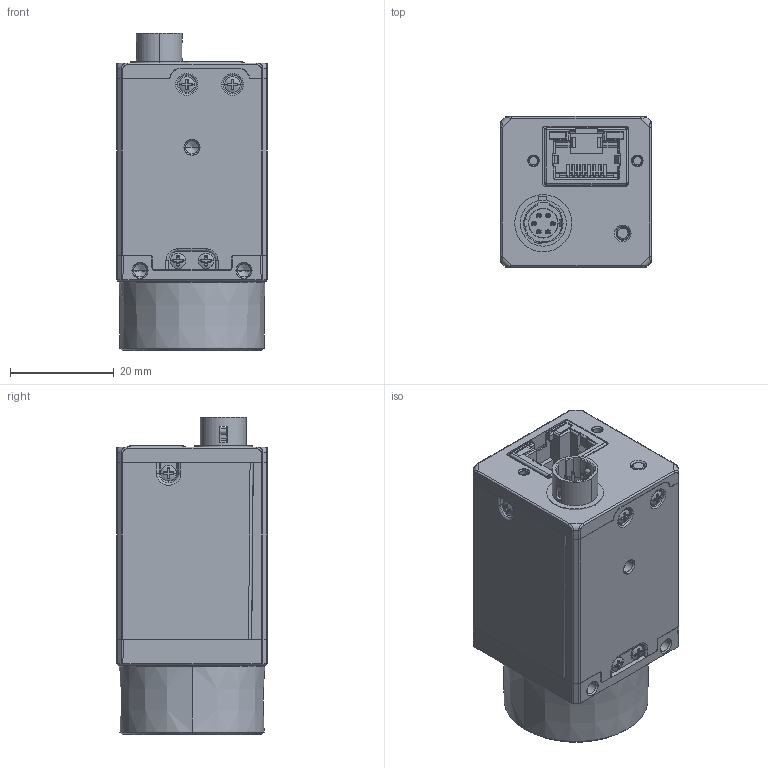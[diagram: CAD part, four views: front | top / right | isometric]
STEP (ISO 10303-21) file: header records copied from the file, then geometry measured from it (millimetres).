
FILE_DESCRIPTION((''),'2;1');
FILE_NAME('00-CUG_GK_ASM','2024-12-26T15:06:53',('zhangqianwen8'),(''),'CREO PARAMETRIC BY PTC INC, 2020044','CREO PARAMETRIC BY PTC INC, 2020044','');
FILE_SCHEMA(('CONFIG_CONTROL_DESIGN'));
Products named in the file (16): 102200787; D-01-35-26-0007_6; DE-13-002304; CU0001_ASM; 101305700; MV-23041REV10-IO_ASM; 101306454; MV-23041REV10-LAN_ASM; MV23041REV10_ASM; D-01-35-26-0837; DE-11-012833-90; DE-13-002468; DE-13-000605; CU0002_ASM; SC_T1M2X3B_2; 00-CUG_GK_ASM
Assembly tree (23 placements, depth 5):
  00-CUG_GK_ASM
    CU0001_ASM
      102200787
      D-01-35-26-0007_6
      DE-13-002304
    CU0002_ASM
      MV23041REV10_ASM
        MV-23041REV10-IO_ASM
          101305700
        MV-23041REV10-LAN_ASM
          101306454
      D-01-35-26-0837
      DE-11-012833-90
      DE-13-002468
      DE-13-000605
    SC_T1M2X3B_2  x9
Bounding box: 29 x 29 x 61.06 mm (x, y, z)
Volume: 20030.7 mm3; surface area: 27938 mm2
Topology: 22 solids, 65 shells, 3725 faces, 10231 edges, 6568 vertices
Faces by surface type: plane 1734, cylinder 871, bspline 572, cone 302, torus 207, sphere 26, extrusion 13
Entity records: 124402 total; most frequent: CARTESIAN_POINT 49594, ORIENTED_EDGE 16687, DIRECTION 13694, EDGE_CURVE 8446, VERTEX_POINT 5464, VECTOR 4890, LINE 4877, AXIS2_PLACEMENT_3D 4402
